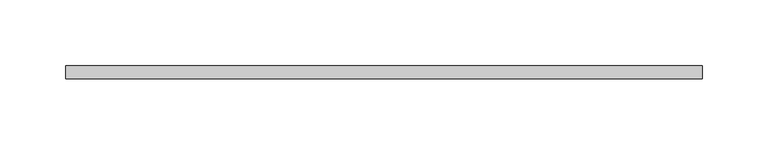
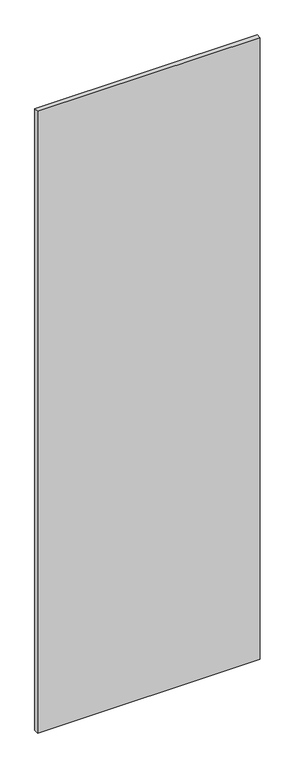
"""IFC4 building model written with IfcOpenShell, lengths in millimetres: plate geometry, システム パネル : 標準."""

from ifc_helpers import new_model, si_unit, origin, origin_with_axes, place, context, project, spatial, polyline, outline, extrude, source, transform, mapped, element, save


def plate_c8db20b3(model_context):
    return source(origin(), model_context, "Body", "SweptSolid", [
        extrude(outline(polyline([(242.5, -5.0), (-242.5, -5.0), (-242.5, 5.0), (242.5, 5.0), (242.5, -5.0)])), origin_with_axes(), (0.0, 0.0, 1.0), 1430.0),
    ])


if __name__ == "__main__":
    model = new_model("IFC4")
    model_context = context("Model", 3, world=origin())
    ifc_project = project(units=[si_unit("LENGTHUNIT", "METRE", prefix="MILLI")], contexts=[model_context])
    site = spatial("IfcSite", under=ifc_project)
    building = spatial("IfcBuilding", under=site)
    placement = place(None, origin())
    plate_shape = plate_c8db20b3(model_context)
    element("IfcPlate", 1, ObjectType="システム パネル : 標準", at=placement, inside=building, context=model_context, shape_type="MappedRepresentation", body=[
        mapped(plate_shape, transform((0.0, 0.0, 0.0), x_axis=(1.0, 0.0, 0.0), y_axis=(0.0, 1.0, 0.0), z_axis=(0.0, 0.0, 1.0))),
    ])
    save(model, "model.ifc")
